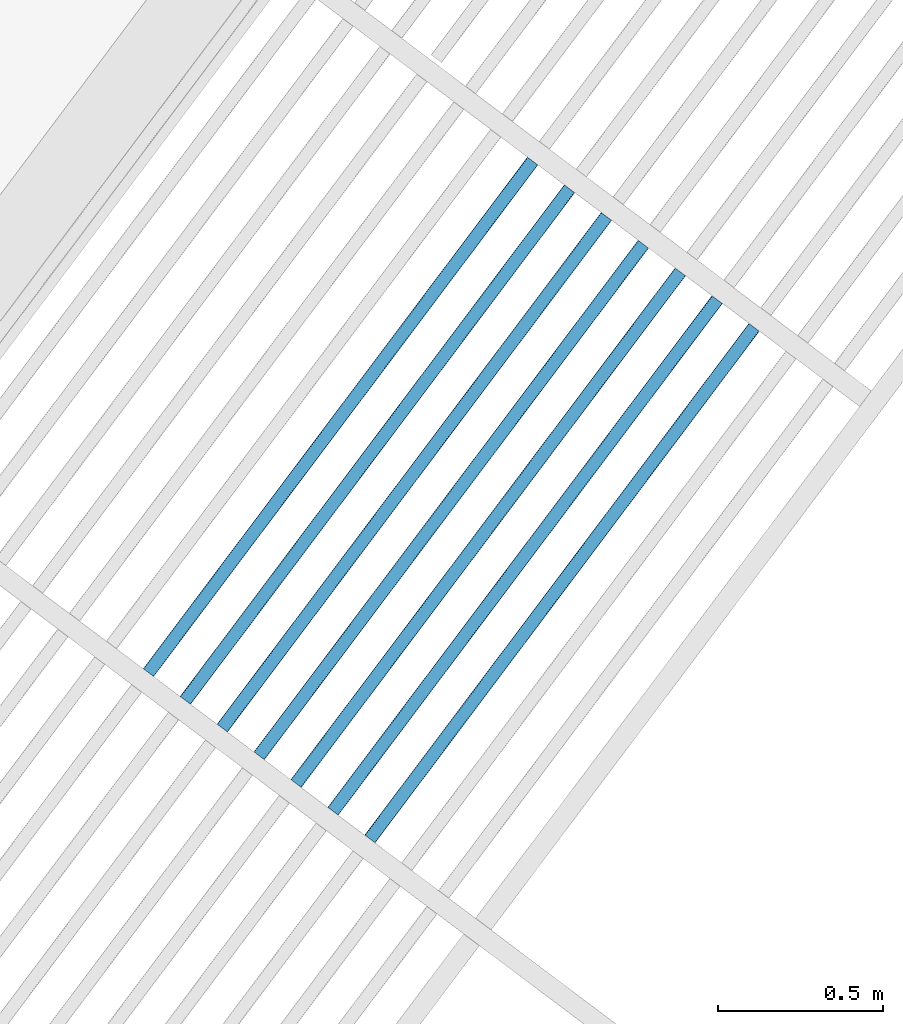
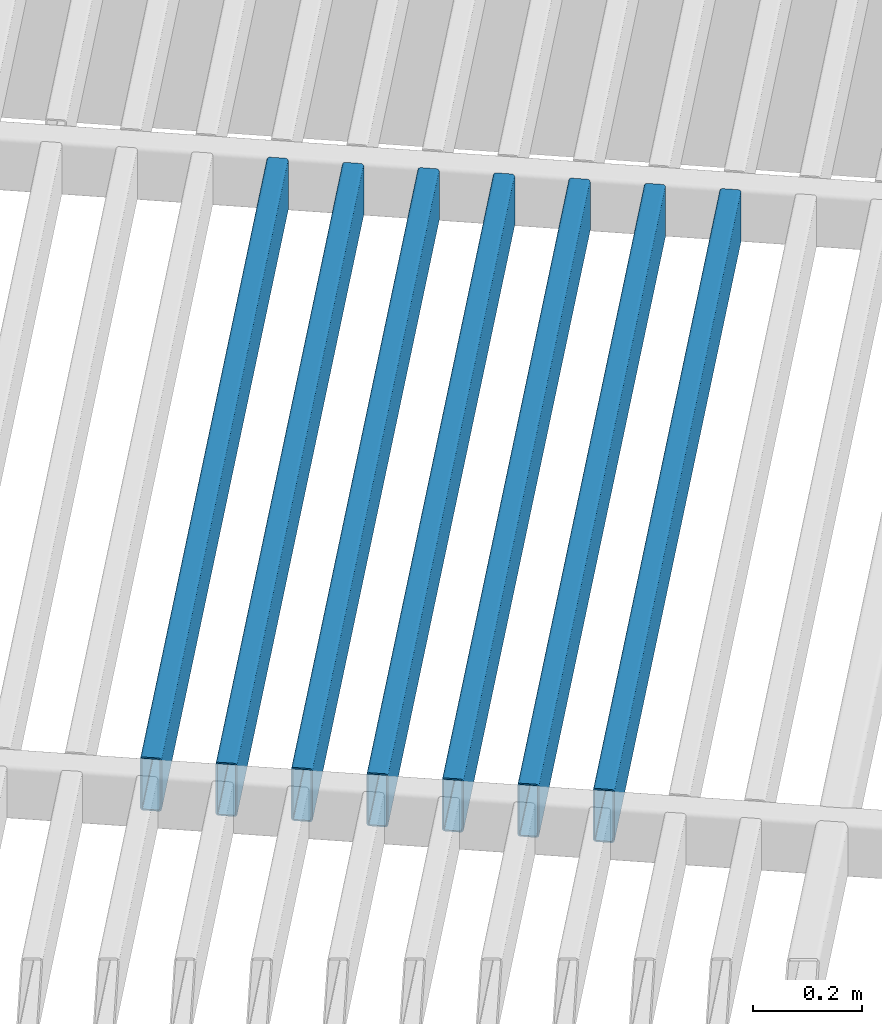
# One storey, part 87 of 95: 7 beams.
"""IFC2X3 building model written with IfcOpenShell, lengths in metres."""

from ifc_helpers import new_model, entity, si_unit, converted_unit, derived_unit, direction, frame, frame_2d, origin, place, context, subcontext, project, spatial, polyline, circle_curve, parameter, trimmed, segment, composite_curve, outline, extrude, material, type_object, element, save


model = new_model("IFC2X3")

# Units and contexts
model_context = context("Model", 3, precision=1e-05, world=origin(), true_north=direction((6.123031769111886e-17, 1.0)))
body_context = subcontext(model_context, "Body", "Model", "MODEL_VIEW")
ifc_project = project(units=[si_unit("LENGTHUNIT", "METRE"), si_unit("AREAUNIT", "SQUARE_METRE"), si_unit("VOLUMEUNIT", "CUBIC_METRE"), converted_unit("PLANEANGLEUNIT", "DEGREE", entity("IfcRatioMeasure", 0.017453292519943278), si_unit("PLANEANGLEUNIT", "RADIAN"), dimensions=[0, 0, 0, 0, 0, 0, 0]), si_unit("MASSUNIT", "GRAM", prefix="KILO"), derived_unit("MASSDENSITYUNIT", [(si_unit("MASSUNIT", "GRAM", prefix="KILO"), 1), (si_unit("LENGTHUNIT", "METRE"), -3)]), derived_unit("IONCONCENTRATIONUNIT", [(si_unit("MASSUNIT", "GRAM", prefix="KILO"), 1), (si_unit("LENGTHUNIT", "METRE"), -3)]), derived_unit("MOMENTOFINERTIAUNIT", [(si_unit("LENGTHUNIT", "METRE"), 4)]), si_unit("TIMEUNIT", "SECOND"), si_unit("FREQUENCYUNIT", "HERTZ"), si_unit("THERMODYNAMICTEMPERATUREUNIT", "DEGREE_CELSIUS"), derived_unit("THERMALTRANSMITTANCEUNIT", [(si_unit("MASSUNIT", "GRAM", prefix="KILO"), 1), (si_unit("THERMODYNAMICTEMPERATUREUNIT", "KELVIN"), -1), (si_unit("TIMEUNIT", "SECOND"), -3)]), derived_unit("THERMALCONDUCTANCEUNIT", [(si_unit("MASSUNIT", "GRAM", prefix="KILO"), 1), (si_unit("THERMODYNAMICTEMPERATUREUNIT", "KELVIN"), -1), (si_unit("TIMEUNIT", "SECOND"), -3), (si_unit("LENGTHUNIT", "METRE"), 1)]), derived_unit("VOLUMETRICFLOWRATEUNIT", [(si_unit("LENGTHUNIT", "METRE"), 3), (si_unit("TIMEUNIT", "SECOND"), -1)]), derived_unit("MASSFLOWRATEUNIT", [(si_unit("MASSUNIT", "GRAM", prefix="KILO"), 1), (si_unit("TIMEUNIT", "SECOND"), -1)]), derived_unit("ROTATIONALFREQUENCYUNIT", [(si_unit("TIMEUNIT", "SECOND"), -1)]), si_unit("ELECTRICCURRENTUNIT", "AMPERE"), si_unit("ELECTRICVOLTAGEUNIT", "VOLT"), si_unit("POWERUNIT", "WATT"), si_unit("FORCEUNIT", "NEWTON", prefix="KILO"), si_unit("ILLUMINANCEUNIT", "LUX"), si_unit("LUMINOUSFLUXUNIT", "LUMEN"), si_unit("LUMINOUSINTENSITYUNIT", "CANDELA"), derived_unit("USERDEFINED", [(si_unit("MASSUNIT", "GRAM", prefix="KILO"), -1), (si_unit("LENGTHUNIT", "METRE"), -2), (si_unit("TIMEUNIT", "SECOND"), 3), (si_unit("LUMINOUSFLUXUNIT", "LUMEN"), 1)]), derived_unit("USERDEFINED", [(si_unit("MASSUNIT", "GRAM", prefix="KILO"), 1), (si_unit("TIMEUNIT", "SECOND"), -3), (si_unit("LENGTHUNIT", "METRE"), 3), (si_unit("ELECTRICCURRENTUNIT", "AMPERE"), -2)]), derived_unit("SOUNDPOWERUNIT", [(si_unit("MASSUNIT", "GRAM", prefix="KILO"), 1), (si_unit("TIMEUNIT", "SECOND"), -3), (si_unit("LENGTHUNIT", "METRE"), 2)]), derived_unit("SOUNDPRESSUREUNIT", [(si_unit("MASSUNIT", "GRAM", prefix="KILO"), 1), (si_unit("LENGTHUNIT", "METRE"), -1), (si_unit("TIMEUNIT", "SECOND"), -2)]), derived_unit("LINEARVELOCITYUNIT", [(si_unit("LENGTHUNIT", "METRE"), 1), (si_unit("TIMEUNIT", "SECOND"), -1)]), si_unit("PRESSUREUNIT", "PASCAL"), derived_unit("USERDEFINED", [(si_unit("MASSUNIT", "GRAM", prefix="KILO"), 1), (si_unit("LENGTHUNIT", "METRE"), -2), (si_unit("TIMEUNIT", "SECOND"), -2)]), derived_unit("LINEARFORCEUNIT", [(si_unit("MASSUNIT", "GRAM", prefix="KILO"), 1), (si_unit("TIMEUNIT", "SECOND"), -2)]), derived_unit("PLANARFORCEUNIT", [(si_unit("MASSUNIT", "GRAM", prefix="KILO"), 1), (si_unit("LENGTHUNIT", "METRE"), -1), (si_unit("TIMEUNIT", "SECOND"), -2)]), derived_unit("SPECIFICHEATCAPACITYUNIT", [(si_unit("THERMODYNAMICTEMPERATUREUNIT", "KELVIN"), -1), (si_unit("LENGTHUNIT", "METRE"), 2), (si_unit("TIMEUNIT", "SECOND"), -2)]), derived_unit("HEATINGVALUEUNIT", [(si_unit("LENGTHUNIT", "METRE"), 2), (si_unit("TIMEUNIT", "SECOND"), -2)]), derived_unit("VAPORPERMEABILITYUNIT", [(si_unit("LENGTHUNIT", "METRE"), -1), (si_unit("TIMEUNIT", "SECOND"), 1)]), derived_unit("DYNAMICVISCOSITYUNIT", [(si_unit("MASSUNIT", "GRAM", prefix="KILO"), 1), (si_unit("TIMEUNIT", "SECOND"), -1), (si_unit("LENGTHUNIT", "METRE"), -1)]), derived_unit("THERMALEXPANSIONCOEFFICIENTUNIT", [(si_unit("THERMODYNAMICTEMPERATUREUNIT", "KELVIN"), -1)]), derived_unit("MODULUSOFELASTICITYUNIT", [(si_unit("MASSUNIT", "GRAM", prefix="KILO"), 1), (si_unit("LENGTHUNIT", "METRE"), -1), (si_unit("TIMEUNIT", "SECOND"), -2)]), derived_unit("ISOTHERMALMOISTURECAPACITYUNIT", [(si_unit("LENGTHUNIT", "METRE"), 3), (si_unit("MASSUNIT", "GRAM", prefix="KILO"), -1)]), derived_unit("MOISTUREDIFFUSIVITYUNIT", [(si_unit("TIMEUNIT", "SECOND"), -1), (si_unit("LENGTHUNIT", "METRE"), 2)])], contexts=[model_context])

# Site, building, storey
site_placement = place(None, origin())
site = spatial("IfcSite", under=ifc_project, at=site_placement, Name="Default", CompositionType="ELEMENT")
building_placement = place(site_placement, frame((0.0, 0.0, 235.0), z_axis=(0.0, 0.0, 1.0), x_axis=(-0.7996477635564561, 0.6004693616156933, 0.0)))
building = spatial("IfcBuilding", under=site, at=building_placement, CompositionType="ELEMENT")
storey_placement = place(building_placement, frame((0.0, 0.0, 3.400000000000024)))
storey = spatial("IfcBuildingStorey", under=building, at=storey_placement, Name="PC- Coberta STR", CompositionType="ELEMENT", Elevation=3.400000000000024)

# Beams
ifc_material = material(Name="_Acer- STR")
beam_type = type_object("IfcBeamType", Name="STR- V- Acer- RHS- Rectangular- T1:120x40RHS -", PredefinedType="NOTDEFINED")
beam_1_placement = place(storey_placement, frame((65.49355240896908, -34.38519175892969, 0.4984047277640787), z_axis=(0.0, 0.0, 1.0), x_axis=(0.0, -1.0, 0.0)))
element("IfcBeam", 1, at=beam_1_placement, inside=storey, type_object=beam_type, material=ifc_material, Name="STR- V- Acer- RHS- Rectangular- T1:120x40RHS -", ObjectType="STR- V- Acer- RHS- Rectangular- T1:120x40RHS -", context=body_context, shape_type="SweptSolid", body=[
    extrude(outline(composite_curve([segment(trimmed(circle_curve(frame_2d((-0.014000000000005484, -0.053999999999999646), x_axis=(1.0, 0.0)), 0.006), [parameter(180.0000000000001)], [parameter(269.99999999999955)], True, "PARAMETER"), True, "CONTINUOUS"), segment(polyline([(-0.014000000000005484, -0.0599999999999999), (0.013999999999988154, -0.0599999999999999)]), True, "CONTINUOUS"), segment(trimmed(circle_curve(frame_2d((0.013999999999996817, -0.053999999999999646), x_axis=(1.0, 0.0)), 0.006), [parameter(269.99999999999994)], [parameter(1.0177774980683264e-13)], True, "PARAMETER"), True, "CONTINUOUS"), segment(polyline([(0.019999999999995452, -0.053999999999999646), (0.019999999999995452, 0.05400000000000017)]), True, "CONTINUOUS"), segment(trimmed(circle_curve(frame_2d((0.013999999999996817, 0.05400000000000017), x_axis=(1.0, 0.0)), 0.006), [parameter(359.9999999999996)], [parameter(89.99999999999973)], True, "PARAMETER"), True, "CONTINUOUS"), segment(polyline([(0.013999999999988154, 0.059999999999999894), (-0.014000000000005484, 0.059999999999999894)]), True, "CONTINUOUS"), segment(trimmed(circle_curve(frame_2d((-0.014000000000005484, 0.05400000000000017), x_axis=(1.0, 0.0)), 0.006), [parameter(90.00000000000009)], [parameter(180.00000000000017)], True, "PARAMETER"), True, "CONTINUOUS"), segment(polyline([(-0.020000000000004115, 0.05400000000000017), (-0.020000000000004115, -0.05400000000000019)]), True, "CONTINUOUS")], self_intersect=False), holes=[composite_curve([segment(polyline([(0.013999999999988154, -0.05700000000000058), (-0.014000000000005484, -0.05700000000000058)]), True, "CONTINUOUS"), segment(trimmed(circle_curve(frame_2d((-0.014000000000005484, -0.05400000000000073), x_axis=(1.0, 0.0)), 0.003), [parameter(179.99999999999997)], [parameter(269.9999999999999)], True, "PARAMETER"), False, "CONTINUOUS"), segment(polyline([(-0.0170000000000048, -0.05400000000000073), (-0.0170000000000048, 0.05399999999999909)]), True, "CONTINUOUS"), segment(trimmed(circle_curve(frame_2d((-0.014000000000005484, 0.05399999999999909), x_axis=(1.0, 0.0)), 0.003), [parameter(90.00000000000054)], [parameter(180.0000000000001)], True, "PARAMETER"), False, "CONTINUOUS"), segment(polyline([(-0.014000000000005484, 0.056999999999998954), (0.013999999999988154, 0.056999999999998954)]), True, "CONTINUOUS"), segment(trimmed(circle_curve(frame_2d((0.013999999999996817, 0.05399999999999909), x_axis=(1.0, 0.0)), 0.003), [parameter(0.0)], [parameter(90.00000000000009)], True, "PARAMETER"), False, "CONTINUOUS"), segment(polyline([(0.016999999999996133, 0.05399999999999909), (0.016999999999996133, -0.05400000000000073)]), True, "CONTINUOUS"), segment(trimmed(circle_curve(frame_2d((0.013999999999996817, -0.05400000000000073), x_axis=(1.0, 0.0)), 0.003), [parameter(270.00000000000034)], [parameter(3.053332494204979e-13)], True, "PARAMETER"), False, "CONTINUOUS")], self_intersect=False)]), frame((-1.9399999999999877, 0.021595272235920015, 0.06159527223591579), z_axis=(1.0, 0.0, 0.0), x_axis=(0.0, -1.0, 0.0)), (0.0, 0.0, 1.0), 1.9399999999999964),
])
beam_2_placement = place(storey_placement, frame((65.35355240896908, -34.38519175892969, 0.4984047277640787), z_axis=(0.0, 0.0, 1.0), x_axis=(0.0, -1.0, 0.0)))
element("IfcBeam", 2, at=beam_2_placement, inside=storey, type_object=beam_type, material=ifc_material, Name="STR- V- Acer- RHS- Rectangular- T1:120x40RHS -", ObjectType="STR- V- Acer- RHS- Rectangular- T1:120x40RHS -", context=body_context, shape_type="SweptSolid", body=[
    extrude(outline(composite_curve([segment(trimmed(circle_curve(frame_2d((-0.01400000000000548, -0.053999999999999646), x_axis=(1.0, 0.0)), 0.006), [parameter(180.0000000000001)], [parameter(269.99999999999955)], True, "PARAMETER"), True, "CONTINUOUS"), segment(polyline([(-0.01400000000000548, -0.0599999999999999), (0.013999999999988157, -0.0599999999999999)]), True, "CONTINUOUS"), segment(trimmed(circle_curve(frame_2d((0.013999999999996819, -0.053999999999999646), x_axis=(1.0, 0.0)), 0.006), [parameter(269.99999999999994)], [parameter(1.0177774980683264e-13)], True, "PARAMETER"), True, "CONTINUOUS"), segment(polyline([(0.019999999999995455, -0.053999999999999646), (0.019999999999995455, 0.05400000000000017)]), True, "CONTINUOUS"), segment(trimmed(circle_curve(frame_2d((0.013999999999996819, 0.05400000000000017), x_axis=(1.0, 0.0)), 0.006), [parameter(359.9999999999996)], [parameter(89.99999999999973)], True, "PARAMETER"), True, "CONTINUOUS"), segment(polyline([(0.013999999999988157, 0.059999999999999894), (-0.01400000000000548, 0.059999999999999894)]), True, "CONTINUOUS"), segment(trimmed(circle_curve(frame_2d((-0.01400000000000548, 0.05400000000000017), x_axis=(1.0, 0.0)), 0.006), [parameter(90.00000000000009)], [parameter(180.00000000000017)], True, "PARAMETER"), True, "CONTINUOUS"), segment(polyline([(-0.02000000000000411, 0.05400000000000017), (-0.02000000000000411, -0.05400000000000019)]), True, "CONTINUOUS")], self_intersect=False), holes=[composite_curve([segment(polyline([(0.013999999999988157, -0.05700000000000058), (-0.01400000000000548, -0.05700000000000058)]), True, "CONTINUOUS"), segment(trimmed(circle_curve(frame_2d((-0.01400000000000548, -0.05400000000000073), x_axis=(1.0, 0.0)), 0.003), [parameter(179.99999999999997)], [parameter(269.9999999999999)], True, "PARAMETER"), False, "CONTINUOUS"), segment(polyline([(-0.017000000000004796, -0.05400000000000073), (-0.017000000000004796, 0.05399999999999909)]), True, "CONTINUOUS"), segment(trimmed(circle_curve(frame_2d((-0.01400000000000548, 0.05399999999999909), x_axis=(1.0, 0.0)), 0.003), [parameter(90.00000000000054)], [parameter(180.0000000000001)], True, "PARAMETER"), False, "CONTINUOUS"), segment(polyline([(-0.01400000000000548, 0.056999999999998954), (0.013999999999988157, 0.056999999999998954)]), True, "CONTINUOUS"), segment(trimmed(circle_curve(frame_2d((0.013999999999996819, 0.05399999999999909), x_axis=(1.0, 0.0)), 0.003), [parameter(0.0)], [parameter(90.00000000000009)], True, "PARAMETER"), False, "CONTINUOUS"), segment(polyline([(0.016999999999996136, 0.05399999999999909), (0.016999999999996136, -0.05400000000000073)]), True, "CONTINUOUS"), segment(trimmed(circle_curve(frame_2d((0.013999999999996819, -0.05400000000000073), x_axis=(1.0, 0.0)), 0.003), [parameter(270.00000000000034)], [parameter(3.053332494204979e-13)], True, "PARAMETER"), False, "CONTINUOUS")], self_intersect=False)]), frame((-1.9399999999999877, 0.021595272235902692, 0.06159527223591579), z_axis=(1.0, 0.0, 0.0), x_axis=(0.0, -1.0, 0.0)), (0.0, 0.0, 1.0), 1.9399999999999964),
])
beam_3_placement = place(storey_placement, frame((65.2135524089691, -34.38519175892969, 0.4984047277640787), z_axis=(0.0, 0.0, 1.0), x_axis=(0.0, -1.0, 0.0)))
element("IfcBeam", 3, at=beam_3_placement, inside=storey, type_object=beam_type, material=ifc_material, Name="STR- V- Acer- RHS- Rectangular- T1:120x40RHS -", ObjectType="STR- V- Acer- RHS- Rectangular- T1:120x40RHS -", context=body_context, shape_type="SweptSolid", body=[
    extrude(outline(composite_curve([segment(trimmed(circle_curve(frame_2d((-0.01400000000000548, -0.053999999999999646), x_axis=(1.0, 0.0)), 0.006), [parameter(180.0000000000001)], [parameter(269.99999999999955)], True, "PARAMETER"), True, "CONTINUOUS"), segment(polyline([(-0.01400000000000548, -0.0599999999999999), (0.013999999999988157, -0.0599999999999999)]), True, "CONTINUOUS"), segment(trimmed(circle_curve(frame_2d((0.013999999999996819, -0.053999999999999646), x_axis=(1.0, 0.0)), 0.006), [parameter(269.99999999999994)], [parameter(1.0177774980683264e-13)], True, "PARAMETER"), True, "CONTINUOUS"), segment(polyline([(0.019999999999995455, -0.053999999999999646), (0.019999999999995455, 0.05400000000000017)]), True, "CONTINUOUS"), segment(trimmed(circle_curve(frame_2d((0.013999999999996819, 0.05400000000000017), x_axis=(1.0, 0.0)), 0.006), [parameter(359.9999999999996)], [parameter(89.99999999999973)], True, "PARAMETER"), True, "CONTINUOUS"), segment(polyline([(0.013999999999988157, 0.059999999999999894), (-0.01400000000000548, 0.059999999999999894)]), True, "CONTINUOUS"), segment(trimmed(circle_curve(frame_2d((-0.01400000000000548, 0.05400000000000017), x_axis=(1.0, 0.0)), 0.006), [parameter(90.00000000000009)], [parameter(180.00000000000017)], True, "PARAMETER"), True, "CONTINUOUS"), segment(polyline([(-0.02000000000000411, 0.05400000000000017), (-0.02000000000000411, -0.05400000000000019)]), True, "CONTINUOUS")], self_intersect=False), holes=[composite_curve([segment(polyline([(0.013999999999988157, -0.05700000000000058), (-0.01400000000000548, -0.05700000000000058)]), True, "CONTINUOUS"), segment(trimmed(circle_curve(frame_2d((-0.01400000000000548, -0.05400000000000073), x_axis=(1.0, 0.0)), 0.003), [parameter(179.99999999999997)], [parameter(269.9999999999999)], True, "PARAMETER"), False, "CONTINUOUS"), segment(polyline([(-0.017000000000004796, -0.05400000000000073), (-0.017000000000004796, 0.05399999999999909)]), True, "CONTINUOUS"), segment(trimmed(circle_curve(frame_2d((-0.01400000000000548, 0.05399999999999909), x_axis=(1.0, 0.0)), 0.003), [parameter(90.00000000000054)], [parameter(180.0000000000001)], True, "PARAMETER"), False, "CONTINUOUS"), segment(polyline([(-0.01400000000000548, 0.056999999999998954), (0.013999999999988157, 0.056999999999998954)]), True, "CONTINUOUS"), segment(trimmed(circle_curve(frame_2d((0.013999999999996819, 0.05399999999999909), x_axis=(1.0, 0.0)), 0.003), [parameter(0.0)], [parameter(90.00000000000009)], True, "PARAMETER"), False, "CONTINUOUS"), segment(polyline([(0.016999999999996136, 0.05399999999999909), (0.016999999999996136, -0.05400000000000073)]), True, "CONTINUOUS"), segment(trimmed(circle_curve(frame_2d((0.013999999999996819, -0.05400000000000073), x_axis=(1.0, 0.0)), 0.003), [parameter(270.00000000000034)], [parameter(3.053332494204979e-13)], True, "PARAMETER"), False, "CONTINUOUS")], self_intersect=False)]), frame((-1.9399999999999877, 0.021595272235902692, 0.06159527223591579), z_axis=(1.0, 0.0, 0.0), x_axis=(0.0, -1.0, 0.0)), (0.0, 0.0, 1.0), 1.9399999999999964),
])
beam_4_placement = place(storey_placement, frame((65.07355240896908, -34.38519175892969, 0.4984047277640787), z_axis=(0.0, 0.0, 1.0), x_axis=(0.0, -1.0, 0.0)))
element("IfcBeam", 4, at=beam_4_placement, inside=storey, type_object=beam_type, material=ifc_material, Name="STR- V- Acer- RHS- Rectangular- T1:120x40RHS -", ObjectType="STR- V- Acer- RHS- Rectangular- T1:120x40RHS -", context=body_context, shape_type="SweptSolid", body=[
    extrude(outline(composite_curve([segment(trimmed(circle_curve(frame_2d((-0.01399999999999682, -0.053999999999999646), x_axis=(1.0, 0.0)), 0.006), [parameter(180.0000000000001)], [parameter(269.99999999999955)], True, "PARAMETER"), True, "CONTINUOUS"), segment(polyline([(-0.01399999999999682, -0.0599999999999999), (0.013999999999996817, -0.0599999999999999)]), True, "CONTINUOUS"), segment(trimmed(circle_curve(frame_2d((0.014000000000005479, -0.053999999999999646), x_axis=(1.0, 0.0)), 0.006), [parameter(269.99999999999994)], [parameter(1.0177774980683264e-13)], True, "PARAMETER"), True, "CONTINUOUS"), segment(polyline([(0.020000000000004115, -0.053999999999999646), (0.020000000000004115, 0.05400000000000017)]), True, "CONTINUOUS"), segment(trimmed(circle_curve(frame_2d((0.014000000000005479, 0.05400000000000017), x_axis=(1.0, 0.0)), 0.006), [parameter(359.9999999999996)], [parameter(89.99999999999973)], True, "PARAMETER"), True, "CONTINUOUS"), segment(polyline([(0.013999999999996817, 0.059999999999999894), (-0.01399999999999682, 0.059999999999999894)]), True, "CONTINUOUS"), segment(trimmed(circle_curve(frame_2d((-0.01399999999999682, 0.05400000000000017), x_axis=(1.0, 0.0)), 0.006), [parameter(90.00000000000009)], [parameter(180.00000000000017)], True, "PARAMETER"), True, "CONTINUOUS"), segment(polyline([(-0.019999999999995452, 0.05400000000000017), (-0.019999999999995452, -0.05400000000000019)]), True, "CONTINUOUS")], self_intersect=False), holes=[composite_curve([segment(polyline([(0.013999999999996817, -0.05700000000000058), (-0.01399999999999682, -0.05700000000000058)]), True, "CONTINUOUS"), segment(trimmed(circle_curve(frame_2d((-0.01399999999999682, -0.05400000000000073), x_axis=(1.0, 0.0)), 0.003), [parameter(179.99999999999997)], [parameter(269.9999999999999)], True, "PARAMETER"), False, "CONTINUOUS"), segment(polyline([(-0.016999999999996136, -0.05400000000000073), (-0.016999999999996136, 0.05399999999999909)]), True, "CONTINUOUS"), segment(trimmed(circle_curve(frame_2d((-0.01399999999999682, 0.05399999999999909), x_axis=(1.0, 0.0)), 0.003), [parameter(90.00000000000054)], [parameter(180.0000000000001)], True, "PARAMETER"), False, "CONTINUOUS"), segment(polyline([(-0.01399999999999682, 0.056999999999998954), (0.013999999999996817, 0.056999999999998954)]), True, "CONTINUOUS"), segment(trimmed(circle_curve(frame_2d((0.014000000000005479, 0.05399999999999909), x_axis=(1.0, 0.0)), 0.003), [parameter(0.0)], [parameter(90.00000000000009)], True, "PARAMETER"), False, "CONTINUOUS"), segment(polyline([(0.017000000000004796, 0.05399999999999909), (0.017000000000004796, -0.05400000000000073)]), True, "CONTINUOUS"), segment(trimmed(circle_curve(frame_2d((0.014000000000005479, -0.05400000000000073), x_axis=(1.0, 0.0)), 0.003), [parameter(270.00000000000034)], [parameter(3.053332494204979e-13)], True, "PARAMETER"), False, "CONTINUOUS")], self_intersect=False)]), frame((-1.9399999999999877, 0.02159527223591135, 0.06159527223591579), z_axis=(1.0, 0.0, 0.0), x_axis=(0.0, -1.0, 0.0)), (0.0, 0.0, 1.0), 1.9399999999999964),
])
beam_5_placement = place(storey_placement, frame((64.93355240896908, -34.38519175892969, 0.4984047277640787), z_axis=(0.0, 0.0, 1.0), x_axis=(0.0, -1.0, 0.0)))
element("IfcBeam", 5, at=beam_5_placement, inside=storey, type_object=beam_type, material=ifc_material, Name="STR- V- Acer- RHS- Rectangular- T1:120x40RHS -", ObjectType="STR- V- Acer- RHS- Rectangular- T1:120x40RHS -", context=body_context, shape_type="SweptSolid", body=[
    extrude(outline(composite_curve([segment(trimmed(circle_curve(frame_2d((-0.013999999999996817, -0.053999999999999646), x_axis=(1.0, 0.0)), 0.006), [parameter(180.0000000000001)], [parameter(269.99999999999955)], True, "PARAMETER"), True, "CONTINUOUS"), segment(polyline([(-0.013999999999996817, -0.0599999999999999), (0.013999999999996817, -0.0599999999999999)]), True, "CONTINUOUS"), segment(trimmed(circle_curve(frame_2d((0.01400000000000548, -0.053999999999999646), x_axis=(1.0, 0.0)), 0.006), [parameter(269.99999999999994)], [parameter(1.0177774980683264e-13)], True, "PARAMETER"), True, "CONTINUOUS"), segment(polyline([(0.020000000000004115, -0.053999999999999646), (0.020000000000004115, 0.05400000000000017)]), True, "CONTINUOUS"), segment(trimmed(circle_curve(frame_2d((0.01400000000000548, 0.05400000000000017), x_axis=(1.0, 0.0)), 0.006), [parameter(359.9999999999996)], [parameter(89.99999999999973)], True, "PARAMETER"), True, "CONTINUOUS"), segment(polyline([(0.013999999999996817, 0.059999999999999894), (-0.013999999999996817, 0.059999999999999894)]), True, "CONTINUOUS"), segment(trimmed(circle_curve(frame_2d((-0.013999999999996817, 0.05400000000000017), x_axis=(1.0, 0.0)), 0.006), [parameter(90.00000000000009)], [parameter(180.00000000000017)], True, "PARAMETER"), True, "CONTINUOUS"), segment(polyline([(-0.019999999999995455, 0.05400000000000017), (-0.019999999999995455, -0.05400000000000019)]), True, "CONTINUOUS")], self_intersect=False), holes=[composite_curve([segment(polyline([(0.013999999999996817, -0.05700000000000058), (-0.013999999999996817, -0.05700000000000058)]), True, "CONTINUOUS"), segment(trimmed(circle_curve(frame_2d((-0.013999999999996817, -0.05400000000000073), x_axis=(1.0, 0.0)), 0.003), [parameter(179.99999999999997)], [parameter(269.9999999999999)], True, "PARAMETER"), False, "CONTINUOUS"), segment(polyline([(-0.01699999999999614, -0.05400000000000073), (-0.01699999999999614, 0.05399999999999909)]), True, "CONTINUOUS"), segment(trimmed(circle_curve(frame_2d((-0.013999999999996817, 0.05399999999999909), x_axis=(1.0, 0.0)), 0.003), [parameter(90.00000000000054)], [parameter(180.0000000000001)], True, "PARAMETER"), False, "CONTINUOUS"), segment(polyline([(-0.013999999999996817, 0.056999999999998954), (0.013999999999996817, 0.056999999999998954)]), True, "CONTINUOUS"), segment(trimmed(circle_curve(frame_2d((0.01400000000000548, 0.05399999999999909), x_axis=(1.0, 0.0)), 0.003), [parameter(0.0)], [parameter(90.00000000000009)], True, "PARAMETER"), False, "CONTINUOUS"), segment(polyline([(0.017000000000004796, 0.05399999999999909), (0.017000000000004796, -0.05400000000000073)]), True, "CONTINUOUS"), segment(trimmed(circle_curve(frame_2d((0.01400000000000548, -0.05400000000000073), x_axis=(1.0, 0.0)), 0.003), [parameter(270.00000000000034)], [parameter(3.053332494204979e-13)], True, "PARAMETER"), False, "CONTINUOUS")], self_intersect=False)]), frame((-1.9399999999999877, 0.021595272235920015, 0.06159527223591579), z_axis=(1.0, 0.0, 0.0), x_axis=(0.0, -1.0, 0.0)), (0.0, 0.0, 1.0), 1.9399999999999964),
])
beam_6_placement = place(storey_placement, frame((64.79355240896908, -34.38519175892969, 0.4984047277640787), z_axis=(0.0, 0.0, 1.0), x_axis=(0.0, -1.0, 0.0)))
element("IfcBeam", 6, at=beam_6_placement, inside=storey, type_object=beam_type, material=ifc_material, Name="STR- V- Acer- RHS- Rectangular- T1:120x40RHS -", ObjectType="STR- V- Acer- RHS- Rectangular- T1:120x40RHS -", context=body_context, shape_type="SweptSolid", body=[
    extrude(outline(composite_curve([segment(trimmed(circle_curve(frame_2d((-0.013999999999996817, -0.053999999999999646), x_axis=(1.0, 0.0)), 0.006), [parameter(180.0000000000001)], [parameter(269.99999999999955)], True, "PARAMETER"), True, "CONTINUOUS"), segment(polyline([(-0.013999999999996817, -0.0599999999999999), (0.013999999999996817, -0.0599999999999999)]), True, "CONTINUOUS"), segment(trimmed(circle_curve(frame_2d((0.01400000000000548, -0.053999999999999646), x_axis=(1.0, 0.0)), 0.006), [parameter(269.99999999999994)], [parameter(1.0177774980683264e-13)], True, "PARAMETER"), True, "CONTINUOUS"), segment(polyline([(0.020000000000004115, -0.053999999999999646), (0.020000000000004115, 0.05400000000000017)]), True, "CONTINUOUS"), segment(trimmed(circle_curve(frame_2d((0.01400000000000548, 0.05400000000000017), x_axis=(1.0, 0.0)), 0.006), [parameter(359.9999999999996)], [parameter(89.99999999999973)], True, "PARAMETER"), True, "CONTINUOUS"), segment(polyline([(0.013999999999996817, 0.059999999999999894), (-0.013999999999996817, 0.059999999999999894)]), True, "CONTINUOUS"), segment(trimmed(circle_curve(frame_2d((-0.013999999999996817, 0.05400000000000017), x_axis=(1.0, 0.0)), 0.006), [parameter(90.00000000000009)], [parameter(180.00000000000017)], True, "PARAMETER"), True, "CONTINUOUS"), segment(polyline([(-0.019999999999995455, 0.05400000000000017), (-0.019999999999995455, -0.05400000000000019)]), True, "CONTINUOUS")], self_intersect=False), holes=[composite_curve([segment(polyline([(0.013999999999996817, -0.05700000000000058), (-0.013999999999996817, -0.05700000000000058)]), True, "CONTINUOUS"), segment(trimmed(circle_curve(frame_2d((-0.013999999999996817, -0.05400000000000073), x_axis=(1.0, 0.0)), 0.003), [parameter(179.99999999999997)], [parameter(269.9999999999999)], True, "PARAMETER"), False, "CONTINUOUS"), segment(polyline([(-0.01699999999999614, -0.05400000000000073), (-0.01699999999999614, 0.05399999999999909)]), True, "CONTINUOUS"), segment(trimmed(circle_curve(frame_2d((-0.013999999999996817, 0.05399999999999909), x_axis=(1.0, 0.0)), 0.003), [parameter(90.00000000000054)], [parameter(180.0000000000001)], True, "PARAMETER"), False, "CONTINUOUS"), segment(polyline([(-0.013999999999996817, 0.056999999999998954), (0.013999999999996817, 0.056999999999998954)]), True, "CONTINUOUS"), segment(trimmed(circle_curve(frame_2d((0.01400000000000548, 0.05399999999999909), x_axis=(1.0, 0.0)), 0.003), [parameter(0.0)], [parameter(90.00000000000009)], True, "PARAMETER"), False, "CONTINUOUS"), segment(polyline([(0.017000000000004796, 0.05399999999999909), (0.017000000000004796, -0.05400000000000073)]), True, "CONTINUOUS"), segment(trimmed(circle_curve(frame_2d((0.01400000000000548, -0.05400000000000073), x_axis=(1.0, 0.0)), 0.003), [parameter(270.00000000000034)], [parameter(3.053332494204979e-13)], True, "PARAMETER"), False, "CONTINUOUS")], self_intersect=False)]), frame((-1.9399999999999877, 0.021595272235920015, 0.06159527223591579), z_axis=(1.0, 0.0, 0.0), x_axis=(0.0, -1.0, 0.0)), (0.0, 0.0, 1.0), 1.9399999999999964),
])
beam_7_placement = place(storey_placement, frame((64.65355240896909, -34.38519175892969, 0.4984047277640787), z_axis=(0.0, 0.0, 1.0), x_axis=(0.0, -1.0, 0.0)))
element("IfcBeam", 7, at=beam_7_placement, inside=storey, type_object=beam_type, material=ifc_material, Name="STR- V- Acer- RHS- Rectangular- T1:120x40RHS -", ObjectType="STR- V- Acer- RHS- Rectangular- T1:120x40RHS -", context=body_context, shape_type="SweptSolid", body=[
    extrude(outline(composite_curve([segment(trimmed(circle_curve(frame_2d((-0.013999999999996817, -0.053999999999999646), x_axis=(1.0, 0.0)), 0.006), [parameter(180.0000000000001)], [parameter(269.99999999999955)], True, "PARAMETER"), True, "CONTINUOUS"), segment(polyline([(-0.013999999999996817, -0.0599999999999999), (0.013999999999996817, -0.0599999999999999)]), True, "CONTINUOUS"), segment(trimmed(circle_curve(frame_2d((0.01400000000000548, -0.053999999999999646), x_axis=(1.0, 0.0)), 0.006), [parameter(269.99999999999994)], [parameter(1.0177774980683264e-13)], True, "PARAMETER"), True, "CONTINUOUS"), segment(polyline([(0.020000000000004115, -0.053999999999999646), (0.020000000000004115, 0.05400000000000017)]), True, "CONTINUOUS"), segment(trimmed(circle_curve(frame_2d((0.01400000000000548, 0.05400000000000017), x_axis=(1.0, 0.0)), 0.006), [parameter(359.9999999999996)], [parameter(89.99999999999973)], True, "PARAMETER"), True, "CONTINUOUS"), segment(polyline([(0.013999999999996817, 0.059999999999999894), (-0.013999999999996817, 0.059999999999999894)]), True, "CONTINUOUS"), segment(trimmed(circle_curve(frame_2d((-0.013999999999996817, 0.05400000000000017), x_axis=(1.0, 0.0)), 0.006), [parameter(90.00000000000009)], [parameter(180.00000000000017)], True, "PARAMETER"), True, "CONTINUOUS"), segment(polyline([(-0.019999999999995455, 0.05400000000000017), (-0.019999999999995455, -0.05400000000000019)]), True, "CONTINUOUS")], self_intersect=False), holes=[composite_curve([segment(polyline([(0.013999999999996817, -0.05700000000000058), (-0.013999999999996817, -0.05700000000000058)]), True, "CONTINUOUS"), segment(trimmed(circle_curve(frame_2d((-0.013999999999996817, -0.05400000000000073), x_axis=(1.0, 0.0)), 0.003), [parameter(179.99999999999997)], [parameter(269.9999999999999)], True, "PARAMETER"), False, "CONTINUOUS"), segment(polyline([(-0.01699999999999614, -0.05400000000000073), (-0.01699999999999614, 0.05399999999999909)]), True, "CONTINUOUS"), segment(trimmed(circle_curve(frame_2d((-0.013999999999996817, 0.05399999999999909), x_axis=(1.0, 0.0)), 0.003), [parameter(90.00000000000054)], [parameter(180.0000000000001)], True, "PARAMETER"), False, "CONTINUOUS"), segment(polyline([(-0.013999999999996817, 0.056999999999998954), (0.013999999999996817, 0.056999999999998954)]), True, "CONTINUOUS"), segment(trimmed(circle_curve(frame_2d((0.01400000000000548, 0.05399999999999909), x_axis=(1.0, 0.0)), 0.003), [parameter(0.0)], [parameter(90.00000000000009)], True, "PARAMETER"), False, "CONTINUOUS"), segment(polyline([(0.017000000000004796, 0.05399999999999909), (0.017000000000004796, -0.05400000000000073)]), True, "CONTINUOUS"), segment(trimmed(circle_curve(frame_2d((0.01400000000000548, -0.05400000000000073), x_axis=(1.0, 0.0)), 0.003), [parameter(270.00000000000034)], [parameter(3.053332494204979e-13)], True, "PARAMETER"), False, "CONTINUOUS")], self_intersect=False)]), frame((-1.9399999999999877, 0.021595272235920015, 0.06159527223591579), z_axis=(1.0, 0.0, 0.0), x_axis=(0.0, -1.0, 0.0)), (0.0, 0.0, 1.0), 1.9399999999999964),
])

save(model, "model.ifc")
